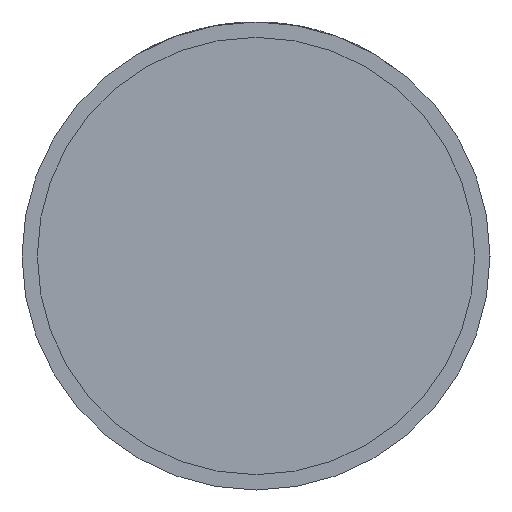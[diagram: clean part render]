
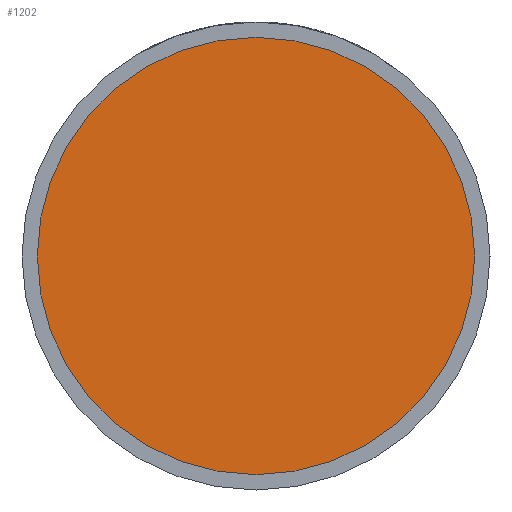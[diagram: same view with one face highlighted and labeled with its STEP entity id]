
A CAD part, front view. The second image highlights one B-rep face of the part: STEP entity #1202.
In plain terms, the highlighted planar face has unit normal (0, -1, 0).
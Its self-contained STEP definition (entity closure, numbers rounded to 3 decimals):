
#77 = EDGE_LOOP ( 'NONE', ( #1268, #4103 ) ) ;
#231 = CARTESIAN_POINT ( 'NONE',  ( 0., -17.5, 0. ) ) ;
#653 = AXIS2_PLACEMENT_3D ( 'NONE', #2358, #720, #3350 ) ;
#720 = DIRECTION ( 'NONE',  ( 0., -1., 0. ) ) ;
#859 = DIRECTION ( 'NONE',  ( 1., 0., 0. ) ) ;
#1140 = CARTESIAN_POINT ( 'NONE',  ( 28.5, -17.5, 0. ) ) ;
#1202 = ADVANCED_FACE ( 'NONE', ( #3783 ), #2434, .T. ) ;
#1227 = DIRECTION ( 'NONE',  ( 0., -1., 0. ) ) ;
#1268 = ORIENTED_EDGE ( 'NONE', *, *, #3228, .T. ) ;
#1385 = CIRCLE ( 'NONE', #3415, 28.5 ) ;
#1666 = AXIS2_PLACEMENT_3D ( 'NONE', #231, #2594, #1965 ) ;
#1965 = DIRECTION ( 'NONE',  ( 1., 0., 0. ) ) ;
#2358 = CARTESIAN_POINT ( 'NONE',  ( 28.5, -17.5, 0. ) ) ;
#2434 = PLANE ( 'NONE',  #653 ) ;
#2594 = DIRECTION ( 'NONE',  ( 0., -1., 0. ) ) ;
#2633 = EDGE_CURVE ( 'NONE', #4283, #4191, #3061, .T. ) ;
#3061 = CIRCLE ( 'NONE', #1666, 28.5 ) ;
#3223 = CARTESIAN_POINT ( 'NONE',  ( 0., -17.5, 0. ) ) ;
#3228 = EDGE_CURVE ( 'NONE', #4191, #4283, #1385, .T. ) ;
#3230 = CARTESIAN_POINT ( 'NONE',  ( -28.5, -17.5, 0. ) ) ;
#3350 = DIRECTION ( 'NONE',  ( 1., 0., 0. ) ) ;
#3415 = AXIS2_PLACEMENT_3D ( 'NONE', #3223, #1227, #859 ) ;
#3783 = FACE_OUTER_BOUND ( 'NONE', #77, .T. ) ;
#4103 = ORIENTED_EDGE ( 'NONE', *, *, #2633, .T. ) ;
#4191 = VERTEX_POINT ( 'NONE', #1140 ) ;
#4283 = VERTEX_POINT ( 'NONE', #3230 ) ;
